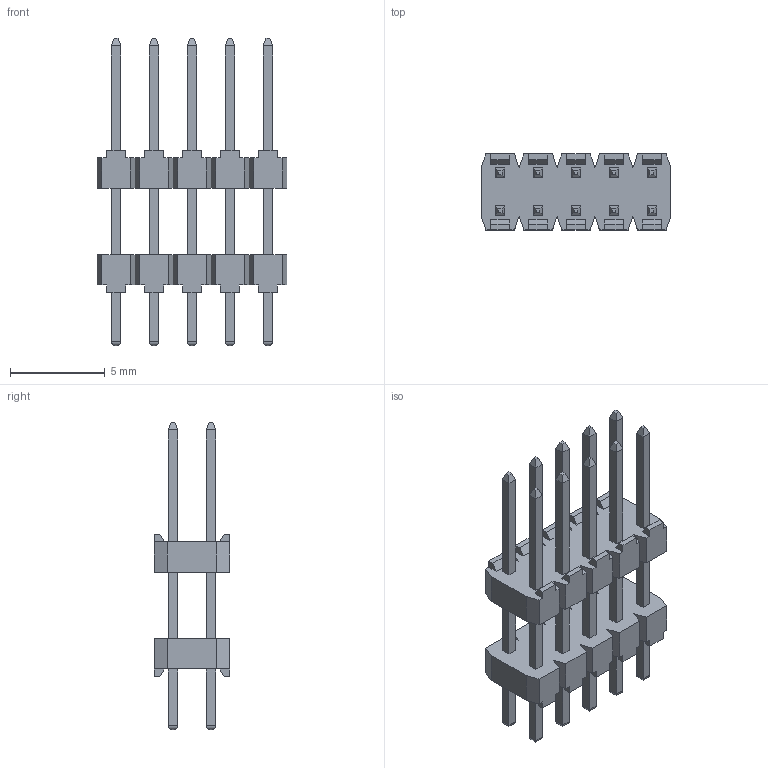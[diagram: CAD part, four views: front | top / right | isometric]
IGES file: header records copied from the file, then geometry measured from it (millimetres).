
Global section: file name: N:\GOLF_VI_2mm_UGII\9514XX_806XX06_AR\951410-8061506-AR.igs; native system: NX V3.0; preprocessor: UGS NX IGES V4.0; date: 20070314.100844; units: millimetre
Bounding box: 10 x 4 x 16.2 mm (x, y, z)
Surface area: 532.7 mm2 (no closed solid volume)
Topology: 0 solids, 0 shells, 368 faces, 1905 edges, 1905 vertices
Faces by surface type: bspline 368
